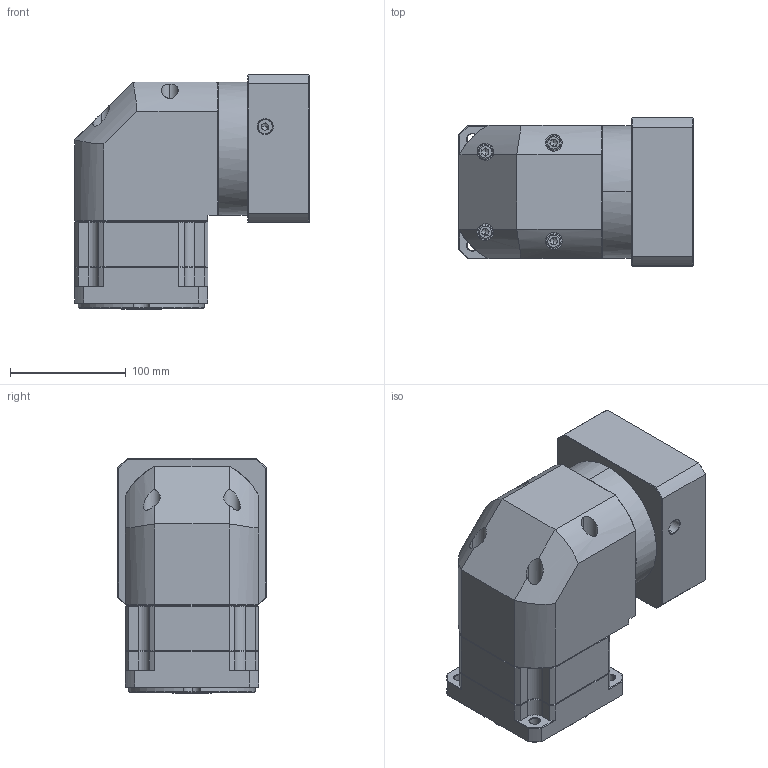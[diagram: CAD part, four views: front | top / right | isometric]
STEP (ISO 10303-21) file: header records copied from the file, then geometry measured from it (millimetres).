
FILE_DESCRIPTION (( 'STEP AP214' ), '1' );
FILE_NAME ('ZBR115A-K25-L1-P2-28-110-145-M8.step', '2023-08-26T12:43:19', ( '' ), ( '' ), 'SwSTEP 2.0', 'SolidWorks 2016', '' );
FILE_SCHEMA (( 'AUTOMOTIVE_DESIGN' ));
Length unit declared in the file: millimetre
Products named in the file (1): ZBR115A-K25-L1-P2-28-110-145-M8
Bounding box: 202.4 x 128 x 203 mm (x, y, z)
Volume: 3103349.3 mm3; surface area: 258883.9 mm2
Topology: 6 solids, 6 shells, 2326 faces, 6090 edges, 3865 vertices
Faces by surface type: plane 1133, bspline 416, cylinder 406, cone 363, torus 8
Entity records: 122683 total; most frequent: CARTESIAN_POINT 43283, ORIENTED_EDGE 12124, DIRECTION 9588, EDGE_CURVE 6062, VECTOR 3942, LINE 3942, VERTEX_POINT 3865, AXIS2_PLACEMENT_3D 2823
